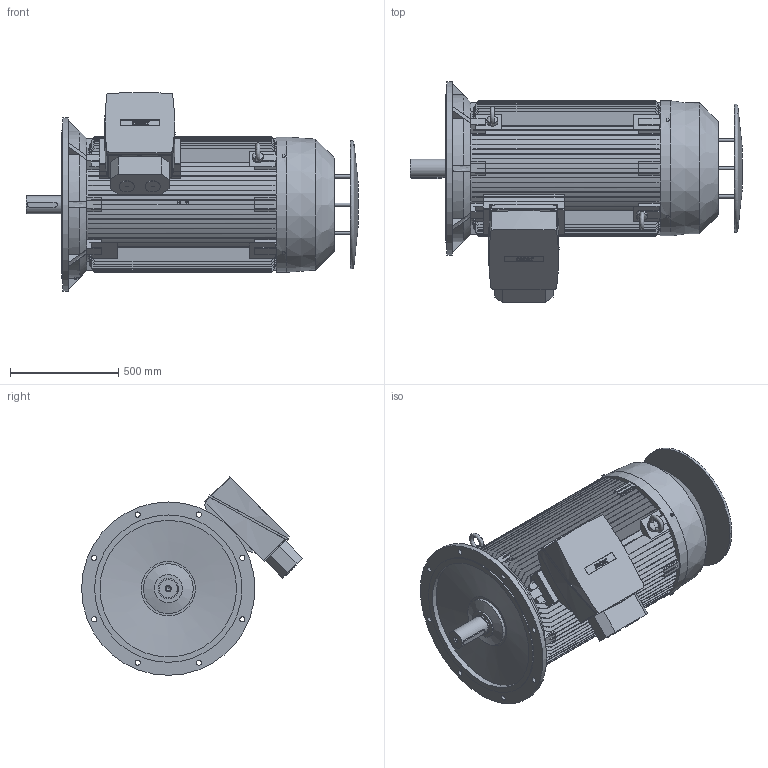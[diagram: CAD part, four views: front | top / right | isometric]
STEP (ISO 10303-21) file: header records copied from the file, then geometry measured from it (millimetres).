
FILE_DESCRIPTION (( 'STEP AP214' ), '1' );
FILE_NAME ('7RN315L04E46 IM3011+Rf.STEP', '2017-12-11T09:32:58', ( 'rbc_ict' ), ( '' ), 'SwSTEP 2.0', 'SolidWorks 2015', '' );
FILE_SCHEMA (( 'AUTOMOTIVE_DESIGN' ));
Length unit declared in the file: millimetre
Products named in the file (1): 7RN315L04E46 IM3011+Rf
Bounding box: 1532 x 1018.72 x 916.8 mm (x, y, z)
Volume: 347154465.9 mm3; surface area: 10748982.8 mm2
Topology: 1 solids, 2 shells, 1086 faces, 3062 edges, 2019 vertices
Faces by surface type: plane 711, bspline 199, cylinder 167, cone 9
Full cylindrical faces by diameter (mm): 8 x8, 11.5 x4, 14 x4, 20 x3, 24 x9, 50 x2, 70 x2, 85 x1, 95 x1, 130 x1, 230 x1, 624 x1, 630 x1, 680 x1, 800 x1
Entity records: 53392 total; most frequent: CARTESIAN_POINT 16409, ORIENTED_EDGE 5982, DIRECTION 4494, EDGE_CURVE 2991, VERTEX_POINT 2000, VECTOR 1742, LINE 1742, AXIS2_PLACEMENT_3D 1376
